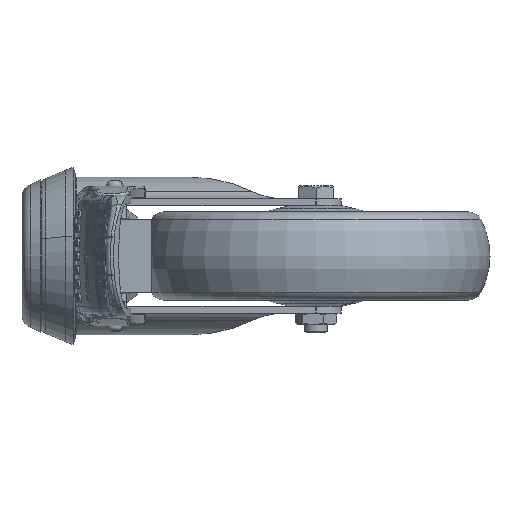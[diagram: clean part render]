
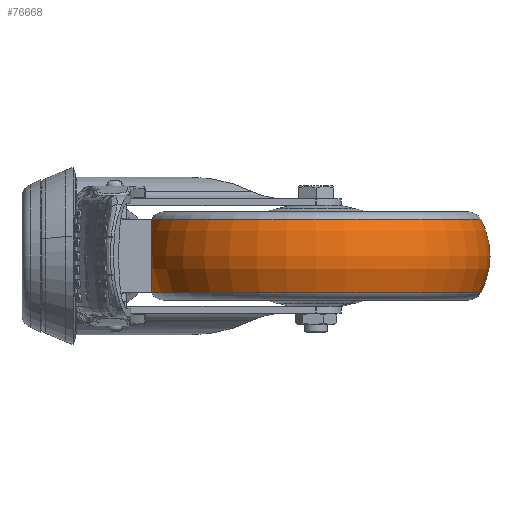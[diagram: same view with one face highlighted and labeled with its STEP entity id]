
A CAD part, left-side view. The second image highlights one B-rep face of the part: STEP entity #76668.
In plain terms, the highlighted toroidal (fillet/blend) face has major radius 34.25 mm and minor radius 28 mm.
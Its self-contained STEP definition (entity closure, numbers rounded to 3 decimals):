
#53615 = CIRCLE ( 'NONE', #53646, 59.003 ) ;
#53646 = AXIS2_PLACEMENT_3D ( 'NONE', #53912, #53914, #53909 ) ;
#53909 = DIRECTION ( 'NONE',  ( 0., -1., 0. ) ) ;
#53912 = CARTESIAN_POINT ( 'NONE',  ( 106.251, -75.641, 134.993 ) ) ;
#53914 = DIRECTION ( 'NONE',  ( 0., 0., -1. ) ) ;
#54106 = CARTESIAN_POINT ( 'NONE',  ( 106.251, -75.641, 148.079 ) ) ;
#54110 = AXIS2_PLACEMENT_3D ( 'NONE', #54106, #54151, #54150 ) ;
#54132 = DIRECTION ( 'NONE',  ( 0., 0., 1. ) ) ;
#54133 = DIRECTION ( 'NONE',  ( -1., 0., 0. ) ) ;
#54134 = CARTESIAN_POINT ( 'NONE',  ( 106.251, -41.391, 148.079 ) ) ;
#54139 = AXIS2_PLACEMENT_3D ( 'NONE', #54134, #54133, #54132 ) ;
#54140 = CARTESIAN_POINT ( 'NONE',  ( 106.251, -16.638, 161.166 ) ) ;
#54142 = CIRCLE ( 'NONE', #54139, 28. ) ;
#54144 = CARTESIAN_POINT ( 'NONE',  ( 106.251, -134.645, 161.166 ) ) ;
#54150 = DIRECTION ( 'NONE',  ( 0., -1., 0. ) ) ;
#54151 = DIRECTION ( 'NONE',  ( 0., 0., -1. ) ) ;
#54158 = FACE_OUTER_BOUND ( 'NONE', #76683, .T. ) ;
#54161 = TOROIDAL_SURFACE ( 'NONE', #54110, 34.25, 28. ) ;
#54174 = CARTESIAN_POINT ( 'NONE',  ( 106.251, -16.638, 134.993 ) ) ;
#54185 = CARTESIAN_POINT ( 'NONE',  ( 106.251, -134.645, 134.993 ) ) ;
#54231 = CIRCLE ( 'NONE', #54268, 28. ) ;
#54241 = CIRCLE ( 'NONE', #54285, 59.003 ) ;
#54265 = DIRECTION ( 'NONE',  ( 0., -1., 0. ) ) ;
#54266 = DIRECTION ( 'NONE',  ( 0., 0., -1. ) ) ;
#54267 = CARTESIAN_POINT ( 'NONE',  ( 106.251, -109.891, 148.079 ) ) ;
#54268 = AXIS2_PLACEMENT_3D ( 'NONE', #54267, #54324, #54323 ) ;
#54284 = CARTESIAN_POINT ( 'NONE',  ( 106.251, -75.641, 161.166 ) ) ;
#54285 = AXIS2_PLACEMENT_3D ( 'NONE', #54284, #54266, #54265 ) ;
#54323 = DIRECTION ( 'NONE',  ( 0., 0., -1. ) ) ;
#54324 = DIRECTION ( 'NONE',  ( 1., 0., 0. ) ) ;
#76390 = ORIENTED_EDGE ( 'NONE', *, *, #76733, .F. ) ;
#76668 = ADVANCED_FACE ( 'NONE', ( #54158 ), #54161, .T. ) ;
#76670 = EDGE_CURVE ( 'NONE', #76686, #76677, #54142, .T. ) ;
#76671 = VERTEX_POINT ( 'NONE', #54144 ) ;
#76675 = VERTEX_POINT ( 'NONE', #54185 ) ;
#76677 = VERTEX_POINT ( 'NONE', #54174 ) ;
#76683 = EDGE_LOOP ( 'NONE', ( #76684, #76734, #76735, #76390 ) ) ;
#76684 = ORIENTED_EDGE ( 'NONE', *, *, #76731, .T. ) ;
#76686 = VERTEX_POINT ( 'NONE', #54140 ) ;
#76691 = EDGE_CURVE ( 'NONE', #76675, #76677, #53615, .T. ) ;
#76731 = EDGE_CURVE ( 'NONE', #76671, #76686, #54241, .T. ) ;
#76733 = EDGE_CURVE ( 'NONE', #76671, #76675, #54231, .T. ) ;
#76734 = ORIENTED_EDGE ( 'NONE', *, *, #76670, .T. ) ;
#76735 = ORIENTED_EDGE ( 'NONE', *, *, #76691, .F. ) ;
